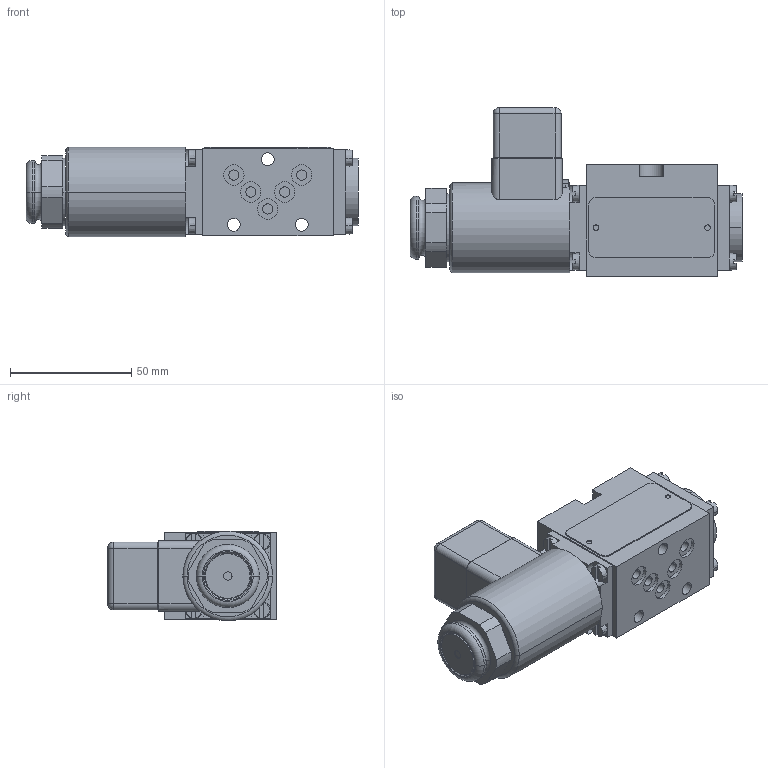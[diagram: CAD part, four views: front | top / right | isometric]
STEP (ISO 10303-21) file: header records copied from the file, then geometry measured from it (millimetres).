
FILE_DESCRIPTION((''),'2;1');
FILE_NAME('RPE2-043-2_ASM','2019-08-21T',('j.koudelka'),(''),'PRO/ENGINEER BY PARAMETRIC TECHNOLOGY CORPORATION, 2015440','PRO/ENGINEER BY PARAMETRIC TECHNOLOGY CORPORATION, 2015440','');
FILE_SCHEMA(('AUTOMOTIVE_DESIGN { 1 0 10303 214 1 1 1 1 }'));
Length unit declared in the file: millimetre
Products named in the file (7): RPE2-043-2_AF0; 32246100; C19B_E1_AF0; RD_LABEL_25X52_159703; ISO_1207_M4X12_202229; ZATKA2_AF1; RPE2-043-2_ASM
Assembly tree (13 placements, depth 2):
  RPE2-043-2_ASM
    RPE2-043-2_AF0
    32246100
    C19B_E1_AF0
    RD_LABEL_25X52_159703
    ISO_1207_M4X12_202229  x8
    ZATKA2_AF1
Bounding box: 136.9 x 69.5 x 37 mm (x, y, z)
Volume: 187631.5 mm3; surface area: 47693.7 mm2
Topology: 13 solids, 23 shells, 336 faces, 932 edges, 727 vertices
Faces by surface type: plane 152, cylinder 144, cone 28, torus 8, sphere 4
Entity records: 12012 total; most frequent: CARTESIAN_POINT 1517, DIRECTION 1513, ORIENTED_EDGE 1098, PRESENTATION_STYLE_ASSIGNMENT 838, STYLED_ITEM 739, CURVE_STYLE 716, EDGE_CURVE 553, AXIS2_PLACEMENT_3D 547
